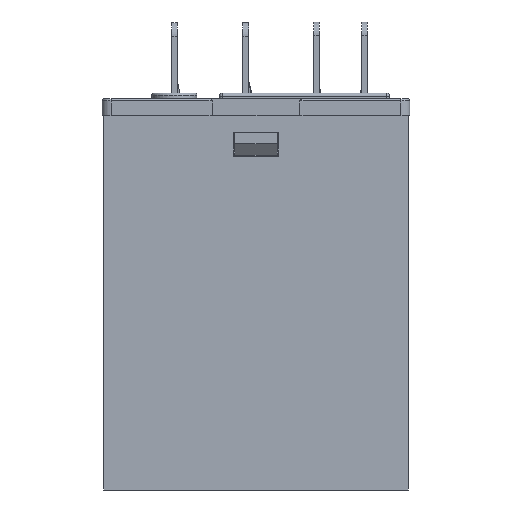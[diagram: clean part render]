
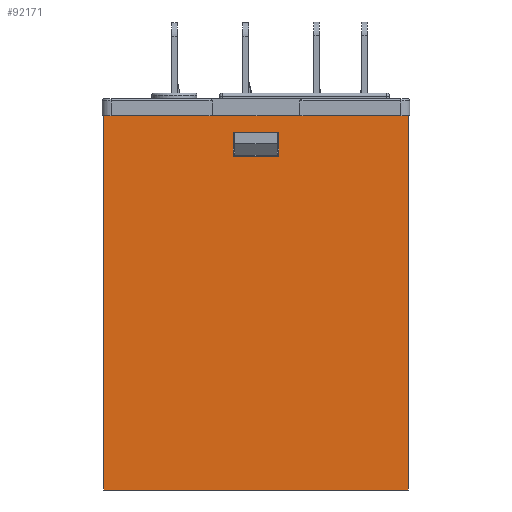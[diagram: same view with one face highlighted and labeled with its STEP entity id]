
A CAD part, front view. The second image highlights one B-rep face of the part: STEP entity #92171.
In plain terms, the highlighted planar face has unit normal (0, -1, 0) as drawn and (1, 0, 0) by its records, which use the part's own axes.
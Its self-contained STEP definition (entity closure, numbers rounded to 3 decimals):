
#91499=DIRECTION('',(0.,-1.,0.));
#91500=VECTOR('',#91499,27.);
#91501=CARTESIAN_POINT('',(20.9,27.,0.));
#91502=LINE('',#91501,#91500);
#91527=DIRECTION('',(0.,0.,1.));
#91528=VECTOR('',#91527,33.2);
#91529=CARTESIAN_POINT('',(20.9,0.,0.));
#91530=LINE('',#91529,#91528);
#91531=DIRECTION('',(0.,-1.,0.));
#91532=VECTOR('',#91531,27.);
#91533=CARTESIAN_POINT('',(20.9,27.,33.2));
#91534=LINE('',#91533,#91532);
#91535=DIRECTION('',(0.,0.,1.));
#91536=VECTOR('',#91535,33.2);
#91537=CARTESIAN_POINT('',(20.9,27.,0.));
#91538=LINE('',#91537,#91536);
#91539=DIRECTION('',(0.,0.,1.));
#91540=VECTOR('',#91539,2.1);
#91541=CARTESIAN_POINT('',(20.9,11.5,29.6));
#91542=LINE('',#91541,#91540);
#91543=DIRECTION('',(0.,-1.,0.));
#91544=VECTOR('',#91543,4.);
#91545=CARTESIAN_POINT('',(20.9,15.5,29.6));
#91546=LINE('',#91545,#91544);
#91547=DIRECTION('',(0.,0.,-1.));
#91548=VECTOR('',#91547,2.1);
#91549=CARTESIAN_POINT('',(20.9,15.5,31.7));
#91550=LINE('',#91549,#91548);
#91551=DIRECTION('',(0.,1.,0.));
#91552=VECTOR('',#91551,4.);
#91553=CARTESIAN_POINT('',(20.9,11.5,31.7));
#91554=LINE('',#91553,#91552);
#91917=CARTESIAN_POINT('',(20.9,27.,0.));
#91918=CARTESIAN_POINT('',(20.9,27.,33.2));
#91919=VERTEX_POINT('',#91917);
#91920=VERTEX_POINT('',#91918);
#91971=CARTESIAN_POINT('',(20.9,15.5,29.6));
#91972=CARTESIAN_POINT('',(20.9,11.5,29.6));
#91973=VERTEX_POINT('',#91971);
#91974=VERTEX_POINT('',#91972);
#92001=CARTESIAN_POINT('',(20.9,0.,33.2));
#92002=VERTEX_POINT('',#92001);
#92009=CARTESIAN_POINT('',(20.9,0.,0.));
#92010=VERTEX_POINT('',#92009);
#92015=CARTESIAN_POINT('',(20.9,11.5,31.7));
#92016=CARTESIAN_POINT('',(20.9,15.5,31.7));
#92017=VERTEX_POINT('',#92015);
#92018=VERTEX_POINT('',#92016);
#92149=CARTESIAN_POINT('',(20.9,0.,33.2));
#92150=DIRECTION('',(-1.,0.,0.));
#92151=DIRECTION('',(0.,0.,1.));
#92152=AXIS2_PLACEMENT_3D('',#92149,#92150,#92151);
#92153=PLANE('',#92152);
#92154=ORIENTED_EDGE('',*,*,#92119,.T.);
#92155=ORIENTED_EDGE('',*,*,#92144,.T.);
#92156=ORIENTED_EDGE('',*,*,#92070,.F.);
#92158=ORIENTED_EDGE('',*,*,#92157,.F.);
#92159=EDGE_LOOP('',(#92154,#92155,#92156,#92158));
#92160=FACE_OUTER_BOUND('',#92159,.F.);
#92162=ORIENTED_EDGE('',*,*,#92161,.F.);
#92164=ORIENTED_EDGE('',*,*,#92163,.F.);
#92166=ORIENTED_EDGE('',*,*,#92165,.F.);
#92168=ORIENTED_EDGE('',*,*,#92167,.F.);
#92169=EDGE_LOOP('',(#92162,#92164,#92166,#92168));
#92170=FACE_BOUND('',#92169,.F.);
#92070=EDGE_CURVE('',#91920,#92002,#91534,.T.);
#92119=EDGE_CURVE('',#91919,#92010,#91502,.T.);
#92144=EDGE_CURVE('',#92010,#92002,#91530,.T.);
#92157=EDGE_CURVE('',#91919,#91920,#91538,.T.);
#92161=EDGE_CURVE('',#91974,#92017,#91542,.T.);
#92163=EDGE_CURVE('',#91973,#91974,#91546,.T.);
#92165=EDGE_CURVE('',#92018,#91973,#91550,.T.);
#92167=EDGE_CURVE('',#92017,#92018,#91554,.T.);
#92171=ADVANCED_FACE('',(#92160,#92170),#92153,.F.);
